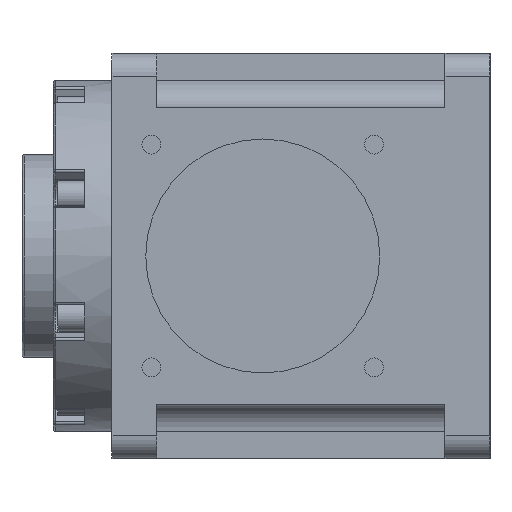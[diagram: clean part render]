
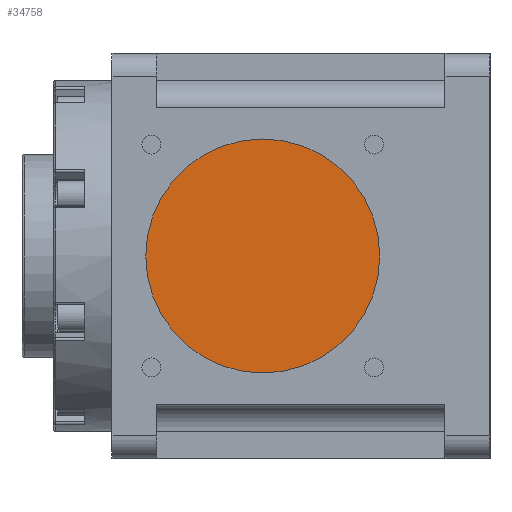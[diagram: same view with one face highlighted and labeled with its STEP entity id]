
A CAD part, left-side view. The second image highlights one B-rep face of the part: STEP entity #34758.
In plain terms, the highlighted planar face has unit normal (-1, 0, 0) as drawn and (0, 1, 0) by its records, which use the part's own axes.
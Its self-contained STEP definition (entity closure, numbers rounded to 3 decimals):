
#1172 = CIRCLE ( 'NONE', #24772, 26. ) ;
#1323 = DIRECTION ( 'NONE',  ( -1., 0., 0. ) ) ;
#3893 = CARTESIAN_POINT ( 'NONE',  ( 17., 41., 0. ) ) ;
#4672 = CARTESIAN_POINT ( 'NONE',  ( 17., 41., 0. ) ) ;
#9696 = CARTESIAN_POINT ( 'NONE',  ( 17., 41., 26. ) ) ;
#10391 = PLANE ( 'NONE',  #34715 ) ;
#11724 = VERTEX_POINT ( 'NONE', #21682 ) ;
#14116 = VERTEX_POINT ( 'NONE', #9696 ) ;
#15606 = ORIENTED_EDGE ( 'NONE', *, *, #43034, .T. ) ;
#17357 = DIRECTION ( 'NONE',  ( -1., 0., 0. ) ) ;
#17364 = AXIS2_PLACEMENT_3D ( 'NONE', #4672, #18382, #1323 ) ;
#18382 = DIRECTION ( 'NONE',  ( 0., 1., 0. ) ) ;
#19532 = CIRCLE ( 'NONE', #17364, 26. ) ;
#20695 = EDGE_LOOP ( 'NONE', ( #15606, #40869 ) ) ;
#20735 = DIRECTION ( 'NONE',  ( 0., 1., 0. ) ) ;
#21163 = CARTESIAN_POINT ( 'NONE',  ( 17., 41., 0. ) ) ;
#21584 = DIRECTION ( 'NONE',  ( 0., 1., 0. ) ) ;
#21682 = CARTESIAN_POINT ( 'NONE',  ( 17., 41., -26. ) ) ;
#24772 = AXIS2_PLACEMENT_3D ( 'NONE', #21163, #21584, #31654 ) ;
#31654 = DIRECTION ( 'NONE',  ( -1., 0., 0. ) ) ;
#34715 = AXIS2_PLACEMENT_3D ( 'NONE', #3893, #20735, #17357 ) ;
#34758 = ADVANCED_FACE ( 'NONE', ( #37720 ), #10391, .T. ) ;
#37720 = FACE_OUTER_BOUND ( 'NONE', #20695, .T. ) ;
#37781 = EDGE_CURVE ( 'NONE', #11724, #14116, #19532, .T. ) ;
#40869 = ORIENTED_EDGE ( 'NONE', *, *, #37781, .T. ) ;
#43034 = EDGE_CURVE ( 'NONE', #14116, #11724, #1172, .T. ) ;
